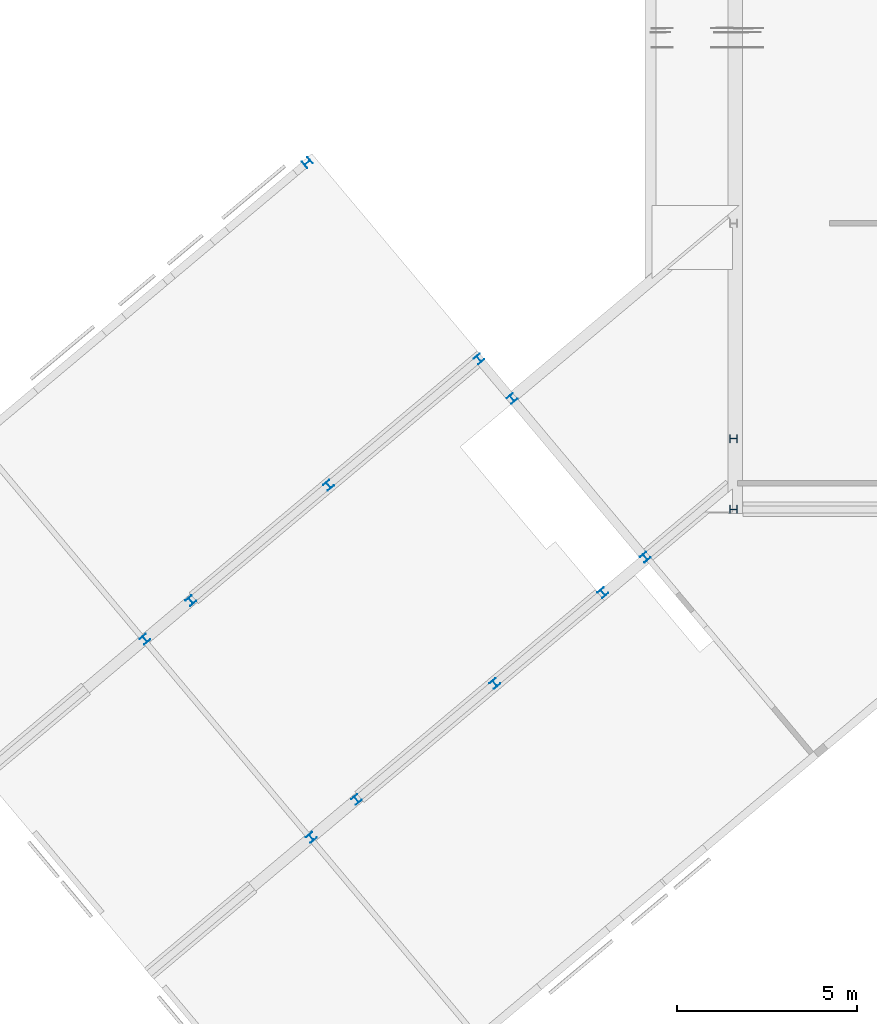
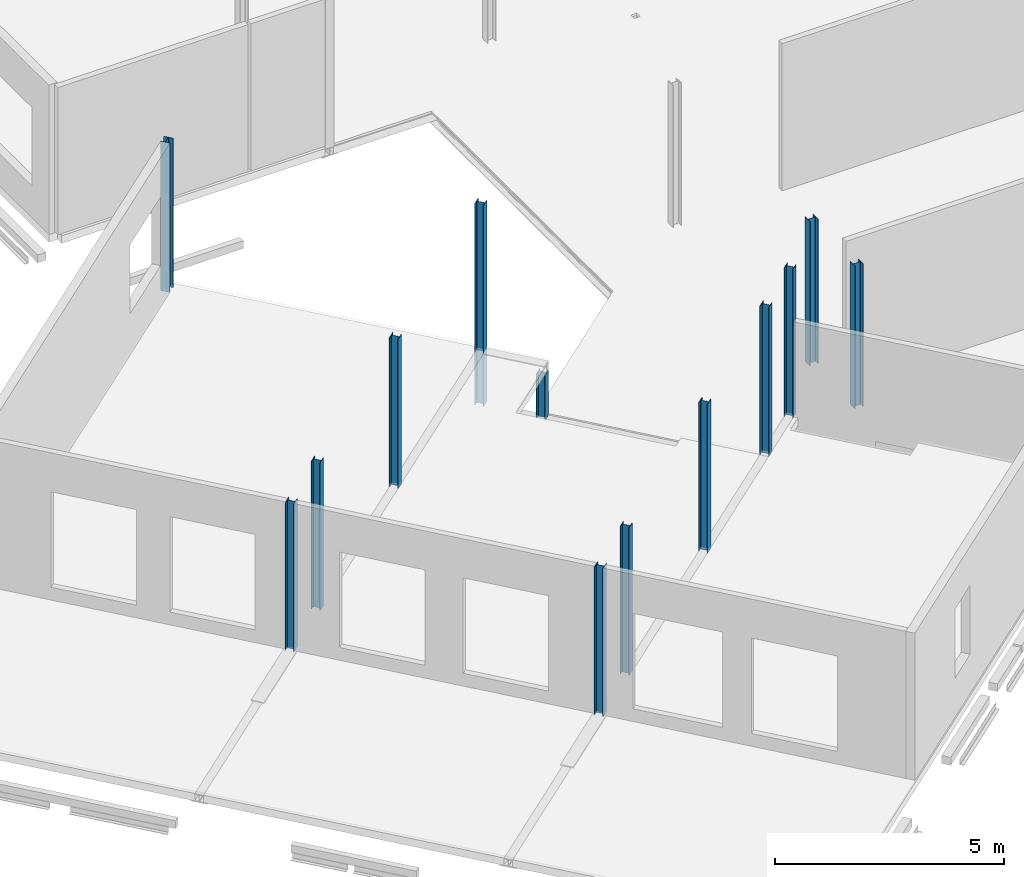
# One storey, part 1 of 16: 13 columns.
"""IFC2X3 building model written with IfcOpenShell, lengths in millimetres."""

from ifc_helpers import new_model, entity, si_unit, converted_unit, derived_unit, direction, frame, frame_2d, origin, place, context, subcontext, project, spatial, polyline, circle_curve, parameter, trimmed, segment, composite_curve, i_section, outline, extrude, source, transform, mapped, material, material_list, type_object, type_shapes, element, save


model = new_model("IFC2X3")

# Units and contexts
model_context = context("Model", 3, precision=0.01, world=origin(), true_north=direction((6.12303176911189e-17, 1.0)))
body_context = subcontext(model_context, "Body", "Model", "MODEL_VIEW")
ifc_project = project(units=[si_unit("LENGTHUNIT", "METRE", prefix="MILLI"), si_unit("AREAUNIT", "SQUARE_METRE"), si_unit("VOLUMEUNIT", "CUBIC_METRE"), converted_unit("PLANEANGLEUNIT", "DEGREE", entity("IfcRatioMeasure", 0.0174532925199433), si_unit("PLANEANGLEUNIT", "RADIAN"), dimensions=[0, 0, 0, 0, 0, 0, 0]), si_unit("MASSUNIT", "GRAM", prefix="KILO"), derived_unit("MASSDENSITYUNIT", [(si_unit("MASSUNIT", "GRAM", prefix="KILO"), 1), (si_unit("LENGTHUNIT", "METRE"), -3)]), derived_unit("MOMENTOFINERTIAUNIT", [(si_unit("LENGTHUNIT", "METRE"), 4)]), si_unit("TIMEUNIT", "SECOND"), si_unit("FREQUENCYUNIT", "HERTZ"), si_unit("THERMODYNAMICTEMPERATUREUNIT", "DEGREE_CELSIUS"), derived_unit("THERMALTRANSMITTANCEUNIT", [(si_unit("MASSUNIT", "GRAM", prefix="KILO"), 1), (si_unit("THERMODYNAMICTEMPERATUREUNIT", "KELVIN"), -1), (si_unit("TIMEUNIT", "SECOND"), -3)]), derived_unit("VOLUMETRICFLOWRATEUNIT", [(si_unit("LENGTHUNIT", "METRE"), 3), (si_unit("TIMEUNIT", "SECOND"), -1)]), si_unit("ELECTRICCURRENTUNIT", "AMPERE"), si_unit("ELECTRICVOLTAGEUNIT", "VOLT"), si_unit("POWERUNIT", "WATT"), si_unit("FORCEUNIT", "NEWTON", prefix="KILO"), si_unit("ILLUMINANCEUNIT", "LUX"), si_unit("LUMINOUSFLUXUNIT", "LUMEN"), si_unit("LUMINOUSINTENSITYUNIT", "CANDELA"), derived_unit("USERDEFINED", [(si_unit("MASSUNIT", "GRAM", prefix="KILO"), -1), (si_unit("LENGTHUNIT", "METRE"), -2), (si_unit("TIMEUNIT", "SECOND"), 3), (si_unit("LUMINOUSFLUXUNIT", "LUMEN"), 1)]), derived_unit("LINEARVELOCITYUNIT", [(si_unit("LENGTHUNIT", "METRE"), 1), (si_unit("TIMEUNIT", "SECOND"), -1)]), si_unit("PRESSUREUNIT", "PASCAL"), derived_unit("USERDEFINED", [(si_unit("LENGTHUNIT", "METRE"), -2), (si_unit("MASSUNIT", "GRAM", prefix="KILO"), 1), (si_unit("TIMEUNIT", "SECOND"), -2)]), derived_unit("LINEARFORCEUNIT", [(si_unit("MASSUNIT", "GRAM", prefix="KILO"), 1), (si_unit("LENGTHUNIT", "METRE"), 1), (si_unit("TIMEUNIT", "SECOND"), -2), (si_unit("LENGTHUNIT", "METRE"), -1)]), derived_unit("PLANARFORCEUNIT", [(si_unit("MASSUNIT", "GRAM", prefix="KILO"), 1), (si_unit("LENGTHUNIT", "METRE"), 1), (si_unit("TIMEUNIT", "SECOND"), -2), (si_unit("LENGTHUNIT", "METRE"), -2)])], contexts=[model_context])

# Site, building, storey
site_placement = place(None, origin())
site = spatial("IfcSite", under=ifc_project, at=site_placement, Name="Default", CompositionType="ELEMENT")
building_placement = place(site_placement, origin())
building = spatial("IfcBuilding", under=site, at=building_placement, CompositionType="ELEMENT")
storey_placement = place(building_placement, frame((0.0, 0.0, 3500.0)))
storey = spatial("IfcBuildingStorey", under=building, at=storey_placement, Name="01 eerste verdieping", CompositionType="ELEMENT", Elevation=3500.00000000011)

# Columns
ifc_material_1 = material(Name="h2_staal")
column_type_1 = type_object("IfcColumnType", Name="BERSnl_28_SCO_TLB_kolom hea_gen_ISR:kolom gen hea220", PredefinedType="COLUMN", material=ifc_material_1)
shared_shape_1 = source(origin(), body_context, "Body", "SweptSolid", [
    extrude(outline(composite_curve([segment(polyline([(94.0, -110.0), (105.0, -110.0)]), True, "CONTINUOUS"), segment(polyline([(105.0, -110.0), (105.0, 110.0)]), True, "CONTINUOUS"), segment(polyline([(105.0, 110.0), (94.0, 110.0)]), True, "CONTINUOUS"), segment(polyline([(94.0, 110.0), (94.0, 21.5000000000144)]), True, "CONTINUOUS"), segment(trimmed(circle_curve(frame_2d((76.0, 21.5000000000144), x_axis=(1.0, 0.0)), 18.0), [parameter(270.0)], [parameter(0.0)], True, "PARAMETER"), False, "CONTINUOUS"), segment(polyline([(76.0, 3.50000000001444), (-76.0, 3.50000000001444)]), True, "CONTINUOUS"), segment(trimmed(circle_curve(frame_2d((-76.0, 21.5000000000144), x_axis=(0.0, -1.0)), 18.0), [parameter(270.0)], [parameter(0.0)], True, "PARAMETER"), False, "CONTINUOUS"), segment(polyline([(-94.0, 21.5000000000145), (-94.0, 110.0)]), True, "CONTINUOUS"), segment(polyline([(-94.0, 110.0), (-105.0, 110.0)]), True, "CONTINUOUS"), segment(polyline([(-105.0, 110.0), (-105.0, -110.0)]), True, "CONTINUOUS"), segment(polyline([(-105.0, -110.0), (-94.0, -110.0)]), True, "CONTINUOUS"), segment(polyline([(-94.0, -110.0), (-94.0, -21.5000000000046)]), True, "CONTINUOUS"), segment(trimmed(circle_curve(frame_2d((-76.0, -21.5000000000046), x_axis=(-1.0, 0.0)), 18.0), [parameter(269.999999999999)], [parameter(0.0)], True, "PARAMETER"), False, "CONTINUOUS"), segment(polyline([(-76.0, -3.50000000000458), (76.0, -3.50000000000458)]), True, "CONTINUOUS"), segment(trimmed(circle_curve(frame_2d((76.0, -21.5000000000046), x_axis=(0.0, 1.0)), 18.0), [parameter(270.0)], [parameter(0.0)], True, "PARAMETER"), False, "CONTINUOUS"), segment(polyline([(94.0, -21.5000000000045), (94.0, -110.0)]), True, "CONTINUOUS")], self_intersect=False)), frame((0.0, 0.0, 3890.0), z_axis=(0.0, 0.0, 1.0), x_axis=(0.0, -1.0, 0.0)), (0.0, 0.0, 1.0), 3818.0),
])
type_shapes(column_type_1, [shared_shape_1])
column_1_placement = place(storey_placement, frame((25615.4349765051, 1752.29662827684, -3500.0), z_axis=(0.0, 0.0, 1.0), x_axis=(0.0, 1.0, 0.0)))
element("IfcColumn", 1, at=column_1_placement, inside=storey, type_object=column_type_1, Name="BERSnl_28_SCO_TLB_kolom hea_gen_ISR:kolom gen hea220", ObjectType="BERSnl_28_SCO_TLB_kolom hea_gen_ISR:kolom gen hea220", context=body_context, shape_type="MappedRepresentation", body=[
    mapped(shared_shape_1, transform((0.0, 0.0, 0.0), scale=1.0)),
])
column_type_2 = type_object("IfcColumnType", Name="BERSnl_28_SCO_TLB_kolom hea_gen_ISR:kolom gen hea220", PredefinedType="COLUMN", material=ifc_material_1)
shared_shape_2 = source(origin(), body_context, "Body", "SweptSolid", [
    extrude(outline(composite_curve([segment(polyline([(94.0, -110.0), (105.0, -110.0)]), True, "CONTINUOUS"), segment(polyline([(105.0, -110.0), (105.0, 110.0)]), True, "CONTINUOUS"), segment(polyline([(105.0, 110.0), (94.0, 110.0)]), True, "CONTINUOUS"), segment(polyline([(94.0, 110.0), (94.0, 21.5000000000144)]), True, "CONTINUOUS"), segment(trimmed(circle_curve(frame_2d((76.0, 21.5000000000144), x_axis=(1.0, 0.0)), 18.0), [parameter(270.0)], [parameter(0.0)], True, "PARAMETER"), False, "CONTINUOUS"), segment(polyline([(76.0, 3.50000000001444), (-76.0, 3.50000000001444)]), True, "CONTINUOUS"), segment(trimmed(circle_curve(frame_2d((-76.0, 21.5000000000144), x_axis=(0.0, -1.0)), 18.0), [parameter(270.0)], [parameter(0.0)], True, "PARAMETER"), False, "CONTINUOUS"), segment(polyline([(-94.0, 21.5000000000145), (-94.0, 110.0)]), True, "CONTINUOUS"), segment(polyline([(-94.0, 110.0), (-105.0, 110.0)]), True, "CONTINUOUS"), segment(polyline([(-105.0, 110.0), (-105.0, -110.0)]), True, "CONTINUOUS"), segment(polyline([(-105.0, -110.0), (-94.0, -110.0)]), True, "CONTINUOUS"), segment(polyline([(-94.0, -110.0), (-94.0, -21.5000000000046)]), True, "CONTINUOUS"), segment(trimmed(circle_curve(frame_2d((-76.0, -21.5000000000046), x_axis=(-1.0, 0.0)), 18.0), [parameter(269.999999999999)], [parameter(0.0)], True, "PARAMETER"), False, "CONTINUOUS"), segment(polyline([(-76.0, -3.50000000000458), (76.0, -3.50000000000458)]), True, "CONTINUOUS"), segment(trimmed(circle_curve(frame_2d((76.0, -21.5000000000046), x_axis=(0.0, 1.0)), 18.0), [parameter(270.0)], [parameter(0.0)], True, "PARAMETER"), False, "CONTINUOUS"), segment(polyline([(94.0, -21.5000000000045), (94.0, -110.0)]), True, "CONTINUOUS")], self_intersect=False)), frame((0.0, 0.0, 3850.0), z_axis=(0.0, 0.0, 1.0), x_axis=(0.0, -1.0, 0.0)), (0.0, 0.0, 1.0), 3858.0),
])
type_shapes(column_type_2, [shared_shape_2])
column_2_placement = place(storey_placement, frame((25615.4349765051, 3722.29662827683, -3500.0), z_axis=(0.0, 0.0, 1.0), x_axis=(0.0, 1.0, 0.0)))
element("IfcColumn", 2, at=column_2_placement, inside=storey, type_object=column_type_2, Name="BERSnl_28_SCO_TLB_kolom hea_gen_ISR:kolom gen hea220", ObjectType="BERSnl_28_SCO_TLB_kolom hea_gen_ISR:kolom gen hea220", context=body_context, shape_type="MappedRepresentation", body=[
    mapped(shared_shape_2, transform((0.0, 0.0, 0.0), scale=1.0)),
])
ifc_material_2 = material(Name="<Unnamed>")
ifc_material_3 = material(Name="00_Staal_generiek")
ifc_material_list_1 = material_list([ifc_material_2, ifc_material_3])
column_type_3 = type_object("IfcColumnType", Name="BERSnl_28_SCO_TLB_kolom hea_gen_ISR:kolom gen hea220", PredefinedType="COLUMN", material=ifc_material_list_1)
shared_shape_3 = source(origin(), body_context, "Body", "SweptSolid", [
    extrude(outline(composite_curve([segment(polyline([(94.0, -110.0), (105.0, -110.0)]), True, "CONTINUOUS"), segment(polyline([(105.0, -110.0), (105.0, 110.0)]), True, "CONTINUOUS"), segment(polyline([(105.0, 110.0), (94.0, 110.0)]), True, "CONTINUOUS"), segment(polyline([(94.0, 110.0), (94.0, 21.5000000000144)]), True, "CONTINUOUS"), segment(trimmed(circle_curve(frame_2d((76.0, 21.5000000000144), x_axis=(1.0, 0.0)), 18.0), [parameter(270.0)], [parameter(0.0)], True, "PARAMETER"), False, "CONTINUOUS"), segment(polyline([(76.0, 3.50000000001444), (-76.0, 3.50000000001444)]), True, "CONTINUOUS"), segment(trimmed(circle_curve(frame_2d((-76.0, 21.5000000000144), x_axis=(0.0, -1.0)), 18.0), [parameter(270.0)], [parameter(0.0)], True, "PARAMETER"), False, "CONTINUOUS"), segment(polyline([(-94.0, 21.5000000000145), (-94.0, 110.0)]), True, "CONTINUOUS"), segment(polyline([(-94.0, 110.0), (-105.0, 110.0)]), True, "CONTINUOUS"), segment(polyline([(-105.0, 110.0), (-105.0, -110.0)]), True, "CONTINUOUS"), segment(polyline([(-105.0, -110.0), (-94.0, -110.0)]), True, "CONTINUOUS"), segment(polyline([(-94.0, -110.0), (-94.0, -21.5000000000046)]), True, "CONTINUOUS"), segment(trimmed(circle_curve(frame_2d((-76.0, -21.5000000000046), x_axis=(-1.0, 0.0)), 18.0), [parameter(269.999999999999)], [parameter(0.0)], True, "PARAMETER"), False, "CONTINUOUS"), segment(polyline([(-76.0, -3.50000000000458), (76.0, -3.50000000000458)]), True, "CONTINUOUS"), segment(trimmed(circle_curve(frame_2d((76.0, -21.5000000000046), x_axis=(0.0, 1.0)), 18.0), [parameter(270.0)], [parameter(0.0)], True, "PARAMETER"), False, "CONTINUOUS"), segment(polyline([(94.0, -21.5000000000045), (94.0, -110.0)]), True, "CONTINUOUS")], self_intersect=False)), frame((0.0, 0.0, 5325.0), z_axis=(0.0, 0.0, 1.0), x_axis=(0.0, -1.0, 0.0)), (0.0, 0.0, 1.0), 3950.00000000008),
])
type_shapes(column_type_3, [shared_shape_3])
for number, where, z_axis, x_axis, name in (
    (3, (13869.9271234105, -7374.10075727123, -3500.0), (0.0, 0.0, 1.0), (0.766044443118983, 0.642787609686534, 0.0), "BERSnl_28_SCO_TLB_kolom hea_gen_ISR:kolom gen hea220"),
    (4, (10518.2346012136, -788.885119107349, -3500.0), (0.0, 0.0, 1.0), (-0.766044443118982, -0.642787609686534, 0.0), "BERSnl_28_SCO_TLB_kolom hea_gen_ISR:kolom gen hea220"),
    (5, (9241.65950546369, -1858.34619609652, -3500.0), (0.0, 0.0, 1.0), (0.766044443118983, 0.642787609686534, 0.0), "BERSnl_28_SCO_TLB_kolom hea_gen_ISR:kolom gen hea220"),
):
    element("IfcColumn", number, at=place(storey_placement, frame(where, z_axis=z_axis, x_axis=x_axis)), inside=storey, type_object=column_type_3, Name=name, ObjectType="BERSnl_28_SCO_TLB_kolom hea_gen_ISR:kolom gen hea220", context=body_context, shape_type="MappedRepresentation", body=[
        mapped(shared_shape_3, transform((0.0, 0.0, 0.0), scale=1.0)),
    ])
ifc_material_list_2 = material_list([ifc_material_2, ifc_material_3])
column_type_4 = type_object("IfcColumnType", Name="BERSnl_28_SCO_TLB_kolom hea_gen_ISR:kolom gen hea220", PredefinedType="COLUMN", material=ifc_material_list_2)
shared_shape_4 = source(origin(), body_context, "Body", "SweptSolid", [
    extrude(i_section(OverallWidth=220.0, OverallDepth=210.0, WebThickness=7.000000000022, FlangeThickness=11.0000000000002, FilletRadius=17.9999999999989, at=frame_2d((7.0627947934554e-12, -1.69109171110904e-12), x_axis=(1.0, 0.0))), frame((15127.235172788, -6319.08709051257, 5325.0), z_axis=(0.0, 0.0, 1.0), x_axis=(0.766044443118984, 0.642787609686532, 0.0)), (0.0, 0.0, 1.0), 3950.00000000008),
])
type_shapes(column_type_4, [shared_shape_4])
column_3_placement = place(storey_placement, frame((0.0, 0.0, -3500.0)))
element("IfcColumn", 6, at=column_3_placement, inside=storey, type_object=column_type_4, Name="BERSnl_28_SCO_TLB_kolom hea_gen_ISR:kolom gen hea220", ObjectType="BERSnl_28_SCO_TLB_kolom hea_gen_ISR:kolom gen hea220", context=body_context, shape_type="MappedRepresentation", body=[
    mapped(shared_shape_4, transform((0.0, 0.0, 0.0), scale=1.0)),
])
ifc_material_list_3 = material_list([ifc_material_2, ifc_material_3])
column_type_5 = type_object("IfcColumnType", Name="BERSnl_28_SCO_TLB_kolom hea_gen_ISR:kolom gen hea220", PredefinedType="COLUMN", material=ifc_material_list_3)
shared_shape_5 = source(origin(), body_context, "Body", "SweptSolid", [
    extrude(outline(composite_curve([segment(polyline([(94.0, -110.0), (105.0, -110.0)]), True, "CONTINUOUS"), segment(polyline([(105.0, -110.0), (105.0, 110.0)]), True, "CONTINUOUS"), segment(polyline([(105.0, 110.0), (94.0, 110.0)]), True, "CONTINUOUS"), segment(polyline([(94.0, 110.0), (94.0, 21.5000000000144)]), True, "CONTINUOUS"), segment(trimmed(circle_curve(frame_2d((76.0, 21.5000000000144), x_axis=(1.0, 0.0)), 18.0), [parameter(270.0)], [parameter(0.0)], True, "PARAMETER"), False, "CONTINUOUS"), segment(polyline([(76.0, 3.50000000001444), (-76.0, 3.50000000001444)]), True, "CONTINUOUS"), segment(trimmed(circle_curve(frame_2d((-76.0, 21.5000000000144), x_axis=(0.0, -1.0)), 18.0), [parameter(270.0)], [parameter(0.0)], True, "PARAMETER"), False, "CONTINUOUS"), segment(polyline([(-94.0, 21.5000000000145), (-94.0, 110.0)]), True, "CONTINUOUS"), segment(polyline([(-94.0, 110.0), (-105.0, 110.0)]), True, "CONTINUOUS"), segment(polyline([(-105.0, 110.0), (-105.0, -110.0)]), True, "CONTINUOUS"), segment(polyline([(-105.0, -110.0), (-94.0, -110.0)]), True, "CONTINUOUS"), segment(polyline([(-94.0, -110.0), (-94.0, -21.5000000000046)]), True, "CONTINUOUS"), segment(trimmed(circle_curve(frame_2d((-76.0, -21.5000000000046), x_axis=(-1.0, 0.0)), 18.0), [parameter(269.999999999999)], [parameter(0.0)], True, "PARAMETER"), False, "CONTINUOUS"), segment(polyline([(-76.0, -3.50000000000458), (76.0, -3.50000000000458)]), True, "CONTINUOUS"), segment(trimmed(circle_curve(frame_2d((76.0, -21.5000000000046), x_axis=(0.0, 1.0)), 18.0), [parameter(270.0)], [parameter(0.0)], True, "PARAMETER"), False, "CONTINUOUS"), segment(polyline([(94.0, -21.5000000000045), (94.0, -110.0)]), True, "CONTINUOUS")], self_intersect=False)), frame((0.0, 0.0, 5300.0), z_axis=(0.0, 0.0, 1.0), x_axis=(0.0, -1.0, 0.0)), (0.0, 0.0, 1.0), 3975.00000000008),
])
type_shapes(column_type_5, [shared_shape_5])
for number, where, z_axis, x_axis, name in (
    (7, (18975.7048400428, -3089.83761212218, -3500.0), (0.0, 0.0, 1.0), (-0.766044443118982, -0.642787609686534, 0.0), "BERSnl_28_SCO_TLB_kolom hea_gen_ISR:kolom gen hea220"),
    (8, (21983.3329387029, -566.137983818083, -3500.0), (0.0, 0.0, 1.0), (-0.766044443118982, -0.642787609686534, 0.0), "BERSnl_28_SCO_TLB_kolom hea_gen_ISR:kolom gen hea220"),
    (9, (23161.8384718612, 423.16063380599, -3500.0), (0.0, 0.0, 1.0), (0.766044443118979, 0.642787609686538, 0.0), "BERSnl_28_SCO_TLB_kolom hea_gen_ISR:kolom gen hea220"),
):
    element("IfcColumn", number, at=place(storey_placement, frame(where, z_axis=z_axis, x_axis=x_axis)), inside=storey, type_object=column_type_5, Name=name, ObjectType="BERSnl_28_SCO_TLB_kolom hea_gen_ISR:kolom gen hea220", context=body_context, shape_type="MappedRepresentation", body=[
        mapped(shared_shape_5, transform((0.0, 0.0, 0.0), scale=1.0)),
    ])
ifc_material_list_4 = material_list([ifc_material_2, ifc_material_3])
column_type_6 = type_object("IfcColumnType", Name="BERSnl_28_SCO_TLB_kolom hea_gen_ISR:kolom gen hea220", PredefinedType="COLUMN", material=ifc_material_list_4)
shared_shape_6 = source(origin(), body_context, "Body", "SweptSolid", [
    extrude(i_section(OverallWidth=220.0, OverallDepth=210.000000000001, WebThickness=7.0000000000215, FlangeThickness=11.0000000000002, FilletRadius=17.9999999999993, at=frame_2d((4.71800376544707e-12, -1.12976294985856e-12), x_axis=(1.0, 0.0))), frame((14348.802568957, 2425.34304982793, 5300.0), z_axis=(0.0, 0.0, 1.0), x_axis=(0.766044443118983, 0.642787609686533, 0.0)), (0.0, 0.0, 1.0), 3990.00000000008),
])
type_shapes(column_type_6, [shared_shape_6])
column_4_placement = place(storey_placement, frame((0.0, 0.0, -3500.0)))
element("IfcColumn", 10, at=column_4_placement, inside=storey, type_object=column_type_6, Name="BERSnl_28_SCO_TLB_kolom hea_gen_ISR:kolom gen hea220", ObjectType="BERSnl_28_SCO_TLB_kolom hea_gen_ISR:kolom gen hea220", context=body_context, shape_type="MappedRepresentation", body=[
    mapped(shared_shape_6, transform((0.0, 0.0, 0.0), scale=1.0)),
])
ifc_material_list_5 = material_list([ifc_material_2, ifc_material_3])
column_type_7 = type_object("IfcColumnType", Name="BERSnl_28_SCO_TLB_kolom hea_gen_ISR:kolom gen hea220", PredefinedType="COLUMN", material=ifc_material_list_5)
shared_shape_7 = source(origin(), body_context, "Body", "SweptSolid", [
    extrude(outline(composite_curve([segment(polyline([(94.0, -110.0), (105.0, -110.0)]), True, "CONTINUOUS"), segment(polyline([(105.0, -110.0), (105.0, 110.0)]), True, "CONTINUOUS"), segment(polyline([(105.0, 110.0), (94.0, 110.0)]), True, "CONTINUOUS"), segment(polyline([(94.0, 110.0), (94.0, 21.5000000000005)]), True, "CONTINUOUS"), segment(trimmed(circle_curve(frame_2d((76.0, 21.5000000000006), x_axis=(1.0, 0.0)), 17.9999999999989), [parameter(269.999999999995)], [parameter(0.0)], True, "PARAMETER"), False, "CONTINUOUS"), segment(polyline([(76.0, 3.50000000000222), (-76.0, 3.50000000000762)]), True, "CONTINUOUS"), segment(trimmed(circle_curve(frame_2d((-76.0, 21.5000000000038), x_axis=(0.0, -1.0)), 17.9999999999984), [parameter(269.999999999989)], [parameter(0.0)], True, "PARAMETER"), False, "CONTINUOUS"), segment(polyline([(-94.0, 21.5000000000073), (-94.0, 110.0)]), True, "CONTINUOUS"), segment(polyline([(-94.0, 110.0), (-105.0, 110.0)]), True, "CONTINUOUS"), segment(polyline([(-105.0, 110.0), (-105.0, -110.0)]), True, "CONTINUOUS"), segment(polyline([(-105.0, -110.0), (-94.0, -110.0)]), True, "CONTINUOUS"), segment(polyline([(-94.0, -110.0), (-94.0, -21.5000000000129)]), True, "CONTINUOUS"), segment(trimmed(circle_curve(frame_2d((-76.0, -21.5000000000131), x_axis=(-1.0, 0.0)), 17.999999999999), [parameter(269.999999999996)], [parameter(0.0)], True, "PARAMETER"), False, "CONTINUOUS"), segment(polyline([(-76.0, -3.50000000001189), (76.0, -3.50000000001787)]), True, "CONTINUOUS"), segment(trimmed(circle_curve(frame_2d((76.0, -21.5000000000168), x_axis=(0.0, 1.0)), 17.9999999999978), [parameter(269.99999999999)], [parameter(0.0)], True, "PARAMETER"), False, "CONTINUOUS"), segment(polyline([(94.0, -21.5000000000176), (94.0, -110.0)]), True, "CONTINUOUS")], self_intersect=False)), frame((19456.3832479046, 4839.15020915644, 3873.0), z_axis=(0.0, 0.0, 1.0), x_axis=(-0.64278760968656, 0.766044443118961, 0.0)), (0.0, 0.0, 1.0), 1210.0),
])
type_shapes(column_type_7, [shared_shape_7])
column_5_placement = place(storey_placement, frame((0.0, 0.0, -3500.0)))
element("IfcColumn", 11, at=column_5_placement, inside=storey, type_object=column_type_7, Name="BERSnl_28_SCO_TLB_kolom hea_gen_ISR:kolom gen hea220", ObjectType="BERSnl_28_SCO_TLB_kolom hea_gen_ISR:kolom gen hea220", context=body_context, shape_type="MappedRepresentation", body=[
    mapped(shared_shape_7, transform((0.0, 0.0, 0.0), scale=1.0)),
])
ifc_material_list_6 = material_list([ifc_material_2, ifc_material_3])
column_type_8 = type_object("IfcColumnType", Name="BERSnl_28_SCO_TLB_kolom hea_gen_ISR:kolom gen hea220", PredefinedType="COLUMN", material=ifc_material_list_6)
shared_shape_8 = source(origin(), body_context, "Body", "SweptSolid", [
    extrude(outline(composite_curve([segment(polyline([(94.0, -110.0), (105.0, -110.0)]), True, "CONTINUOUS"), segment(polyline([(105.0, -110.0), (105.0, 110.0)]), True, "CONTINUOUS"), segment(polyline([(105.0, 110.0), (94.0, 110.0)]), True, "CONTINUOUS"), segment(polyline([(94.0, 110.0), (94.0, 21.5000000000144)]), True, "CONTINUOUS"), segment(trimmed(circle_curve(frame_2d((76.0, 21.5000000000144), x_axis=(1.0, 0.0)), 18.0), [parameter(270.0)], [parameter(0.0)], True, "PARAMETER"), False, "CONTINUOUS"), segment(polyline([(76.0, 3.50000000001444), (-76.0, 3.50000000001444)]), True, "CONTINUOUS"), segment(trimmed(circle_curve(frame_2d((-76.0, 21.5000000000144), x_axis=(0.0, -1.0)), 18.0), [parameter(270.0)], [parameter(0.0)], True, "PARAMETER"), False, "CONTINUOUS"), segment(polyline([(-94.0, 21.5000000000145), (-94.0, 110.0)]), True, "CONTINUOUS"), segment(polyline([(-94.0, 110.0), (-105.0, 110.0)]), True, "CONTINUOUS"), segment(polyline([(-105.0, 110.0), (-105.0, -110.0)]), True, "CONTINUOUS"), segment(polyline([(-105.0, -110.0), (-94.0, -110.0)]), True, "CONTINUOUS"), segment(polyline([(-94.0, -110.0), (-94.0, -21.5000000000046)]), True, "CONTINUOUS"), segment(trimmed(circle_curve(frame_2d((-76.0, -21.5000000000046), x_axis=(-1.0, 0.0)), 18.0), [parameter(269.999999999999)], [parameter(0.0)], True, "PARAMETER"), False, "CONTINUOUS"), segment(polyline([(-76.0, -3.50000000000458), (76.0, -3.50000000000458)]), True, "CONTINUOUS"), segment(trimmed(circle_curve(frame_2d((76.0, -21.5000000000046), x_axis=(0.0, 1.0)), 18.0), [parameter(270.0)], [parameter(0.0)], True, "PARAMETER"), False, "CONTINUOUS"), segment(polyline([(94.0, -21.5000000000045), (94.0, -110.0)]), True, "CONTINUOUS")], self_intersect=False)), frame((0.0, 0.0, 5300.0), z_axis=(0.0, 0.0, 1.0), x_axis=(0.0, -1.0, 0.0)), (0.0, 0.0, 1.0), 3990.00000000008),
])
type_shapes(column_type_8, [shared_shape_8])
column_6_placement = place(storey_placement, frame((13759.7667264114, 11402.0724997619, -3500.0), z_axis=(0.0, 0.0, 1.0), x_axis=(0.642787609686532, -0.766044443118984, 0.0)))
element("IfcColumn", 12, at=column_6_placement, inside=storey, type_object=column_type_8, Name="BERSnl_28_SCO_TLB_kolom hea_gen_ISR:kolom gen hea220", ObjectType="BERSnl_28_SCO_TLB_kolom hea_gen_ISR:kolom gen hea220", context=body_context, shape_type="MappedRepresentation", body=[
    mapped(shared_shape_8, transform((0.0, 0.0, 0.0), scale=1.0)),
])
ifc_material_list_7 = material_list([ifc_material_2, ifc_material_3])
column_type_9 = type_object("IfcColumnType", Name="BERSnl_28_SCO_TLB_kolom hea_gen_ISR:kolom gen hea220", PredefinedType="COLUMN", material=ifc_material_list_7)
shared_shape_9 = source(origin(), body_context, "Body", "SweptSolid", [
    extrude(outline(composite_curve([segment(polyline([(94.0, -110.0), (105.0, -110.0)]), True, "CONTINUOUS"), segment(polyline([(105.0, -110.0), (105.0, 110.0)]), True, "CONTINUOUS"), segment(polyline([(105.0, 110.0), (94.0, 110.0)]), True, "CONTINUOUS"), segment(polyline([(94.0, 110.0), (94.0, 21.4999999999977)]), True, "CONTINUOUS"), segment(trimmed(circle_curve(frame_2d((76.0, 21.5000000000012), x_axis=(1.0, 0.0)), 17.9999999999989), [parameter(269.999999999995)], [parameter(0.0)], True, "PARAMETER"), False, "CONTINUOUS"), segment(polyline([(76.0, 3.50000000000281), (-76.0, 3.50000000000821)]), True, "CONTINUOUS"), segment(trimmed(circle_curve(frame_2d((-76.0, 21.5000000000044), x_axis=(0.0, -1.0)), 17.9999999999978), [parameter(269.99999999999)], [parameter(0.0)], True, "PARAMETER"), False, "CONTINUOUS"), segment(polyline([(-94.0, 21.5000000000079), (-94.0, 110.0)]), True, "CONTINUOUS"), segment(polyline([(-94.0, 110.0), (-105.0, 110.0)]), True, "CONTINUOUS"), segment(polyline([(-105.0, 110.0), (-105.0, -110.0)]), True, "CONTINUOUS"), segment(polyline([(-105.0, -110.0), (-94.0, -110.0)]), True, "CONTINUOUS"), segment(polyline([(-94.0, -110.0), (-94.0, -21.5000000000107)]), True, "CONTINUOUS"), segment(trimmed(circle_curve(frame_2d((-76.0, -21.5000000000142), x_axis=(-1.0, 0.0)), 17.9999999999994), [parameter(270.0)], [parameter(0.0)], True, "PARAMETER"), False, "CONTINUOUS"), segment(polyline([(-76.0, -3.50000000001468), (76.0, -3.50000000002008)]), True, "CONTINUOUS"), segment(trimmed(circle_curve(frame_2d((76.0, -21.5000000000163), x_axis=(0.0, 1.0)), 17.9999999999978), [parameter(269.99999999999)], [parameter(0.0)], True, "PARAMETER"), False, "CONTINUOUS"), segment(polyline([(94.0, -21.5000000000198), (94.0, -110.0)]), True, "CONTINUOUS")], self_intersect=False)), frame((18533.7786511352, 5938.66755189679, 3890.0), z_axis=(0.0, 0.0, 1.0), x_axis=(-0.64278760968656, 0.766044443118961, 0.0)), (0.0, 0.0, 1.0), 5385.0),
])
type_shapes(column_type_9, [shared_shape_9])
column_7_placement = place(storey_placement, frame((0.0, 0.0, -3500.0)))
element("IfcColumn", 13, at=column_7_placement, inside=storey, type_object=column_type_9, Name="BERSnl_28_SCO_TLB_kolom hea_gen_ISR:kolom gen hea220", ObjectType="BERSnl_28_SCO_TLB_kolom hea_gen_ISR:kolom gen hea220", context=body_context, shape_type="MappedRepresentation", body=[
    mapped(shared_shape_9, transform((0.0, 0.0, 0.0), scale=1.0)),
])

save(model, "model.ifc")
